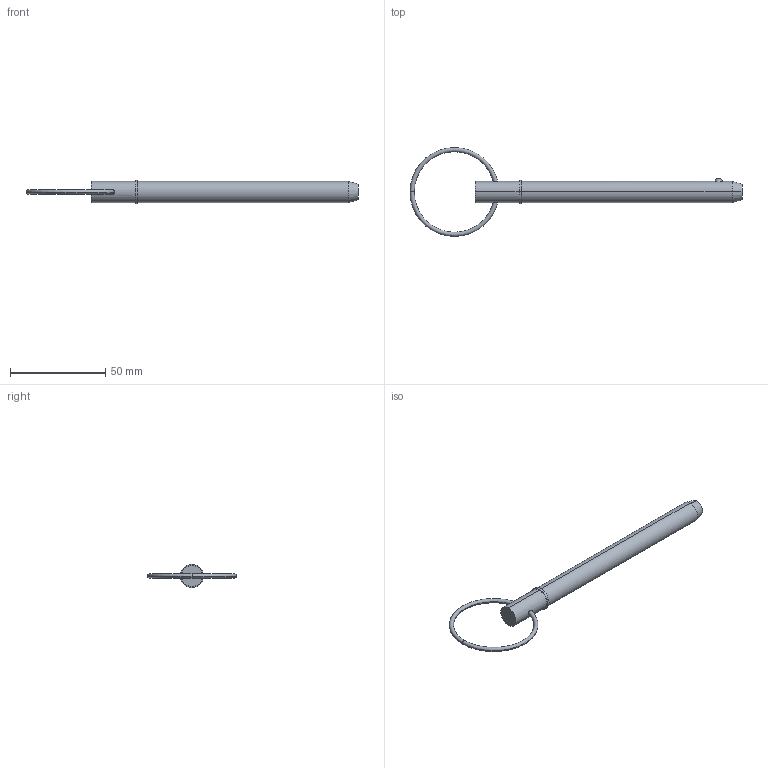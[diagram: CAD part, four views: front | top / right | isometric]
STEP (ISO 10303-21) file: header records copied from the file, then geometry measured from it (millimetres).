
FILE_DESCRIPTION (( 'STEP AP203' ), '1' );
FILE_NAME ('33016.W4340.step', '2024-11-07T11:07:39', ( '' ), ( '' ), 'SwSTEP 2.0', 'SolidWorks 2019', '' );
FILE_SCHEMA (( 'CONFIG_CONTROL_DESIGN' ));
Length unit declared in the file: millimetre
Products named in the file (3): Part2_33016.W4340; 33016.W4340; Part1_33016.W4340
Assembly tree (2 placements, depth 2):
  33016.W4340
    Part1_33016.W4340
    Part2_33016.W4340
Bounding box: 174.22 x 46.67 x 12.22 mm (x, y, z)
Volume: 13965.5 mm3; surface area: 6132.8 mm2
Topology: 2 solids, 2 shells, 22 faces, 43 edges, 26 vertices
Faces by surface type: torus 8, cylinder 6, plane 4, sphere 2, cone 2
Entity records: 1023 total; most frequent: CARTESIAN_POINT 246, DIRECTION 120, ORIENTED_EDGE 86, AXIS2_PLACEMENT_3D 56, EDGE_CURVE 43, CIRCLE 29, EDGE_LOOP 27, VERTEX_POINT 26
